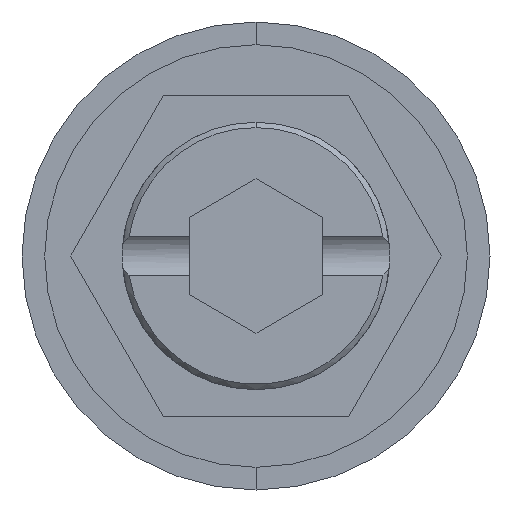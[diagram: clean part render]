
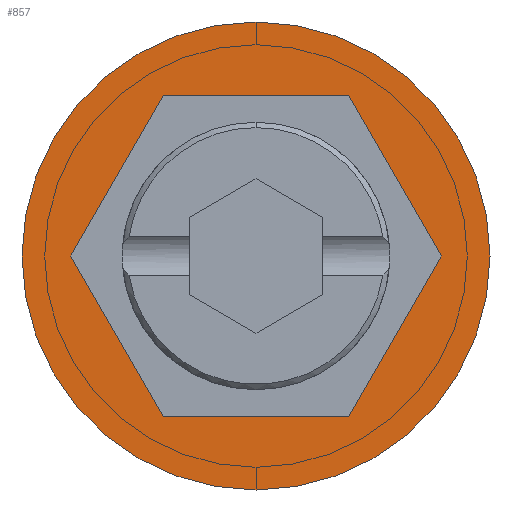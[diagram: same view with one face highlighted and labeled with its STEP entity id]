
A CAD part, front view. The second image highlights one B-rep face of the part: STEP entity #857.
In plain terms, the highlighted planar face has unit normal (0, -1, 0).
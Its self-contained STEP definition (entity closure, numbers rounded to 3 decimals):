
#288 = VERTEX_POINT ( 'NONE', #1833 ) ;
#306 = CARTESIAN_POINT ( 'NONE',  ( 0., 0., 0. ) ) ;
#362 = AXIS2_PLACEMENT_3D ( 'NONE', #306, #3151, #732 ) ;
#380 = CARTESIAN_POINT ( 'NONE',  ( 0., 0., 8.75 ) ) ;
#499 = LINE ( 'NONE', #2299, #2267 ) ;
#519 = VERTEX_POINT ( 'NONE', #2455 ) ;
#732 = DIRECTION ( 'NONE',  ( 0., 0., -1. ) ) ;
#842 = ORIENTED_EDGE ( 'NONE', *, *, #4561, .F. ) ;
#855 = EDGE_CURVE ( 'NONE', #3500, #4900, #2487, .T. ) ;
#857 = ADVANCED_FACE ( 'NONE', ( #2591, #2658 ), #1519, .T. ) ;
#1146 = VECTOR ( 'NONE', #4099, 1000. ) ;
#1171 = DIRECTION ( 'NONE',  ( 0., 0., -1. ) ) ;
#1268 = ORIENTED_EDGE ( 'NONE', *, *, #3847, .F. ) ;
#1295 = CARTESIAN_POINT ( 'NONE',  ( -6.928, 0., 0. ) ) ;
#1307 = ORIENTED_EDGE ( 'NONE', *, *, #2483, .T. ) ;
#1315 = DIRECTION ( 'NONE',  ( 1., 0., 0. ) ) ;
#1332 = CARTESIAN_POINT ( 'NONE',  ( -3.464, 0., -6. ) ) ;
#1366 = EDGE_LOOP ( 'NONE', ( #4946, #2406, #842, #1268, #4940, #4628 ) ) ;
#1392 = VERTEX_POINT ( 'NONE', #3634 ) ;
#1426 = DIRECTION ( 'NONE',  ( 0., -1., 0. ) ) ;
#1428 = CARTESIAN_POINT ( 'NONE',  ( 0., 0., 0. ) ) ;
#1439 = ORIENTED_EDGE ( 'NONE', *, *, #2065, .T. ) ;
#1519 = PLANE ( 'NONE',  #4215 ) ;
#1524 = DIRECTION ( 'NONE',  ( 0., -1., 0. ) ) ;
#1580 = AXIS2_PLACEMENT_3D ( 'NONE', #3820, #1426, #4225 ) ;
#1621 = EDGE_LOOP ( 'NONE', ( #1307, #1439 ) ) ;
#1671 = VECTOR ( 'NONE', #2802, 1000. ) ;
#1833 = CARTESIAN_POINT ( 'NONE',  ( 0., 0., -8.75 ) ) ;
#1959 = EDGE_CURVE ( 'NONE', #4950, #1392, #2215, .T. ) ;
#2065 = EDGE_CURVE ( 'NONE', #4896, #288, #4945, .T. ) ;
#2215 = LINE ( 'NONE', #2577, #5185 ) ;
#2267 = VECTOR ( 'NONE', #3521, 1000. ) ;
#2299 = CARTESIAN_POINT ( 'NONE',  ( -3.464, 0., 6. ) ) ;
#2406 = ORIENTED_EDGE ( 'NONE', *, *, #2864, .F. ) ;
#2455 = CARTESIAN_POINT ( 'NONE',  ( -3.464, 0., 6. ) ) ;
#2483 = EDGE_CURVE ( 'NONE', #288, #4896, #4997, .T. ) ;
#2487 = LINE ( 'NONE', #1332, #2732 ) ;
#2577 = CARTESIAN_POINT ( 'NONE',  ( 6.928, 0., 0. ) ) ;
#2591 = FACE_BOUND ( 'NONE', #1366, .T. ) ;
#2658 = FACE_OUTER_BOUND ( 'NONE', #1621, .T. ) ;
#2732 = VECTOR ( 'NONE', #1315, 1000. ) ;
#2762 = VERTEX_POINT ( 'NONE', #3240 ) ;
#2802 = DIRECTION ( 'NONE',  ( -1., 0., 0. ) ) ;
#2864 = EDGE_CURVE ( 'NONE', #2762, #3500, #3546, .T. ) ;
#3066 = CARTESIAN_POINT ( 'NONE',  ( -3.464, 0., -6. ) ) ;
#3151 = DIRECTION ( 'NONE',  ( 0., -1., 0. ) ) ;
#3215 = CARTESIAN_POINT ( 'NONE',  ( 3.464, 0., -6. ) ) ;
#3240 = CARTESIAN_POINT ( 'NONE',  ( -6.928, 0., 0. ) ) ;
#3441 = CARTESIAN_POINT ( 'NONE',  ( 3.464, 0., -6. ) ) ;
#3458 = DIRECTION ( 'NONE',  ( 0.5, 0., 0.866 ) ) ;
#3500 = VERTEX_POINT ( 'NONE', #3066 ) ;
#3521 = DIRECTION ( 'NONE',  ( -0.5, 0., -0.866 ) ) ;
#3546 = LINE ( 'NONE', #1295, #1146 ) ;
#3612 = CARTESIAN_POINT ( 'NONE',  ( 6.928, 0., 0. ) ) ;
#3634 = CARTESIAN_POINT ( 'NONE',  ( 3.464, 0., 6. ) ) ;
#3782 = LINE ( 'NONE', #4807, #1671 ) ;
#3820 = CARTESIAN_POINT ( 'NONE',  ( 0., 0., 0. ) ) ;
#3847 = EDGE_CURVE ( 'NONE', #1392, #519, #3782, .T. ) ;
#4099 = DIRECTION ( 'NONE',  ( 0.5, 0., -0.866 ) ) ;
#4215 = AXIS2_PLACEMENT_3D ( 'NONE', #1428, #1524, #1171 ) ;
#4219 = EDGE_CURVE ( 'NONE', #4900, #4950, #4343, .T. ) ;
#4225 = DIRECTION ( 'NONE',  ( 0., 0., -1. ) ) ;
#4343 = LINE ( 'NONE', #3441, #5043 ) ;
#4561 = EDGE_CURVE ( 'NONE', #519, #2762, #499, .T. ) ;
#4628 = ORIENTED_EDGE ( 'NONE', *, *, #4219, .F. ) ;
#4807 = CARTESIAN_POINT ( 'NONE',  ( 3.464, 0., 6. ) ) ;
#4896 = VERTEX_POINT ( 'NONE', #380 ) ;
#4900 = VERTEX_POINT ( 'NONE', #3215 ) ;
#4940 = ORIENTED_EDGE ( 'NONE', *, *, #1959, .F. ) ;
#4945 = CIRCLE ( 'NONE', #1580, 8.75 ) ;
#4946 = ORIENTED_EDGE ( 'NONE', *, *, #855, .F. ) ;
#4950 = VERTEX_POINT ( 'NONE', #3612 ) ;
#4995 = DIRECTION ( 'NONE',  ( -0.5, 0., 0.866 ) ) ;
#4997 = CIRCLE ( 'NONE', #362, 8.75 ) ;
#5043 = VECTOR ( 'NONE', #3458, 1000. ) ;
#5185 = VECTOR ( 'NONE', #4995, 1000. ) ;
